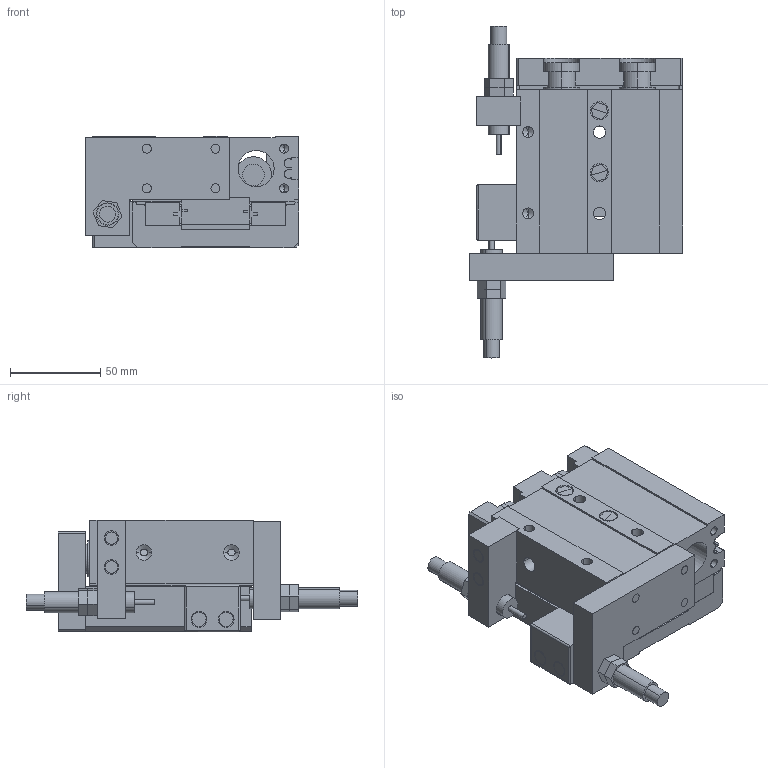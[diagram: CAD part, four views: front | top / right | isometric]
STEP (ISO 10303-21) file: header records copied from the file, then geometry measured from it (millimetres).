
FILE_DESCRIPTION (( 'STEP AP203' ), '1' );
FILE_NAME ('GDX25-30.STEP', '2013-02-28T09:40:47', ( 'Conseil Régional Haute-Normandie' ), ( 'Conseil Régional Haute-Normandie' ), 'SwSTEP 2.0', 'SolidWorks 2010', '' );
FILE_SCHEMA (( 'CONFIG_CONTROL_DESIGN' ));
Length unit declared in the file: millimetre
Products named in the file (17): Pièce15 GDX25-10_Default; Pièce5 GDX25-10_Default; Pièce4 GDX25-10_Default; Pièce11 GDX25-10_Default; Pièce8 tige amortisseur GDX25-10_Default; Pièce2 GDX25-10 Vis pièce1_Default; Pièce17 GDX 25-10_Default; GDX25-30; Pièce1 GDX25-30_Default; Pièce1 GDX25-10_Default; Pièce12 GDX25-10_Default; Pièce14 GDX25-10_Default; Pièce3 GDX25-10_Default; Pièce6 boulon GDX25-10_Default; Pièce7 amortisseur GDX25-10_Default; Pièce16 GDX 25-10_Default; Pièce10 GDX25-10_Default
Assembly tree (35 placements, depth 2):
  GDX25-30
    Pièce15 GDX25-10_Default
    Pièce8 tige amortisseur GDX25-10_Default  x2
    Pièce17 GDX 25-10_Default  x8
    Pièce12 GDX25-10_Default  x2
    Pièce16 GDX 25-10_Default  x4
    Pièce6 boulon GDX25-10_Default  x4
    Pièce11 GDX25-10_Default  x2
    Pièce4 GDX25-10_Default
    Pièce1 GDX25-10_Default
    Pièce3 GDX25-10_Default
    Pièce10 GDX25-10_Default  x2
    Pièce7 amortisseur GDX25-10_Default  x2
    Pièce2 GDX25-10 Vis pièce1_Default  x2
    Pièce1 GDX25-30_Default
    Pièce14 GDX25-10_Default
    Pièce5 GDX25-10_Default
Bounding box: 118 x 183.84 x 62 mm (x, y, z)
Volume: 573594.2 mm3; surface area: 158463 mm2
Topology: 37 solids, 37 shells, 852 faces, 2116 edges, 1368 vertices
Faces by surface type: plane 418, cylinder 235, bspline 133, cone 58, torus 8
Entity records: 33666 total; most frequent: CARTESIAN_POINT 15082, ORIENTED_EDGE 3506, DIRECTION 3001, EDGE_CURVE 1753, VERTEX_POINT 1156, VECTOR 1111, LINE 1111, AXIS2_PLACEMENT_3D 945
